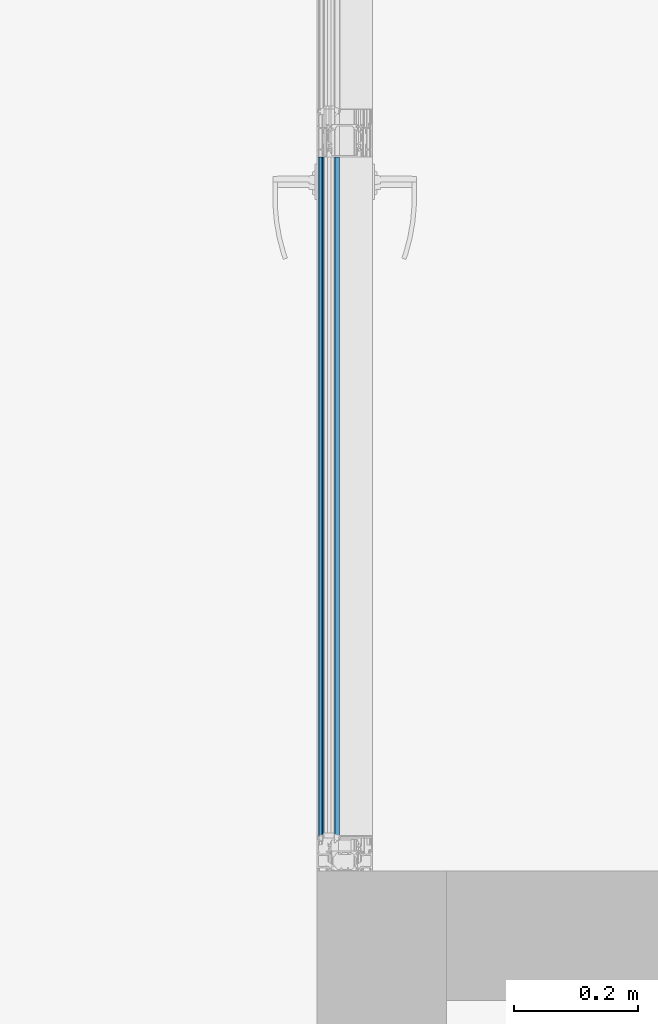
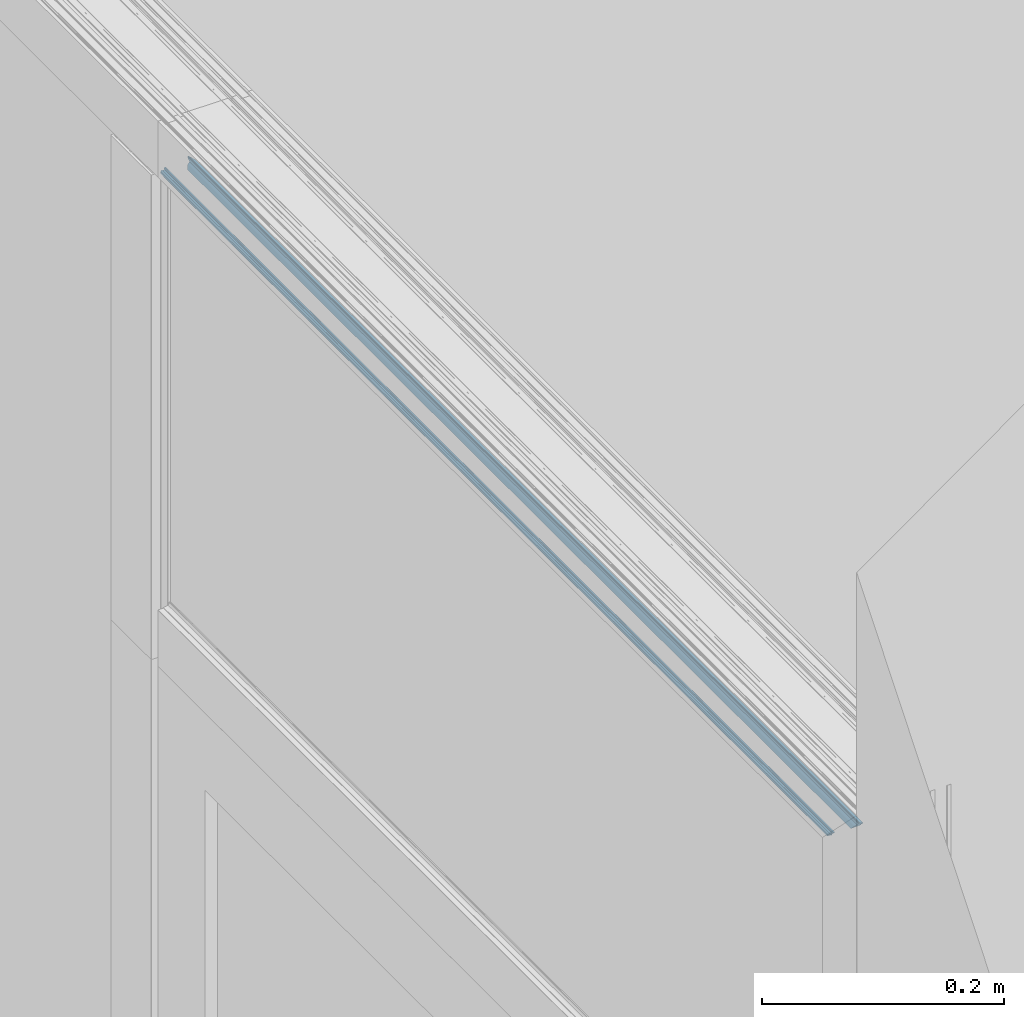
# One storey, part 45 of 62: 1 building element part, 2 elements without a shape of their own.
"""IFC2X3 building model written with IfcOpenShell, lengths in millimetres."""

from ifc_helpers import new_model, entity, si_unit, converted_unit, derived_unit, money_unit, direction, frame, origin_with_axes, place, context, subcontext, project, spatial, faceted_brep, material, type_object, element, aggregate, save


model = new_model("IFC2X3")

# Units and contexts
model_context = context("Model", 3, precision=0.01, world=origin_with_axes(), true_north=direction((0.0, 1.0)))
body_context = subcontext(model_context, "Body", "Model", "MODEL_VIEW")
ifc_project = project(units=[si_unit("LENGTHUNIT", "METRE", prefix="MILLI"), si_unit("AREAUNIT", "SQUARE_METRE"), si_unit("VOLUMEUNIT", "CUBIC_METRE"), converted_unit("PLANEANGLEUNIT", "DEGREE", entity("IfcPlaneAngleMeasure", 0.0174532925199), si_unit("PLANEANGLEUNIT", "RADIAN"), dimensions=[0, 0, 0, 0, 0, 0, 0]), si_unit("SOLIDANGLEUNIT", "STERADIAN"), money_unit("EUR"), converted_unit("TIMEUNIT", "Year", entity("IfcTimeMeasure", 31556926.0), si_unit("TIMEUNIT", "SECOND"), dimensions=[0, 0, 1, 0, 0, 0, 0]), si_unit("MASSUNIT", "GRAM", prefix="KILO"), si_unit("THERMODYNAMICTEMPERATUREUNIT", "DEGREE_CELSIUS"), si_unit("LUMINOUSINTENSITYUNIT", "LUMEN"), si_unit("ENERGYUNIT", "JOULE", prefix="MEGA"), derived_unit("THERMALCONDUCTANCEUNIT", [(si_unit("POWERUNIT", "WATT"), 1), (si_unit("LENGTHUNIT", "METRE"), -1), (si_unit("THERMODYNAMICTEMPERATUREUNIT", "KELVIN"), -1)]), derived_unit("SPECIFICHEATCAPACITYUNIT", [(si_unit("ENERGYUNIT", "JOULE"), 1), (si_unit("MASSUNIT", "GRAM", prefix="KILO"), -1), (si_unit("THERMODYNAMICTEMPERATUREUNIT", "KELVIN"), -1)]), derived_unit("MASSDENSITYUNIT", [(si_unit("MASSUNIT", "GRAM", prefix="KILO"), 1), (si_unit("VOLUMEUNIT", "CUBIC_METRE"), -1)])], contexts=[model_context])

# Site, building, storey
site_placement = place(None, origin_with_axes())
site = spatial("IfcSite", under=ifc_project, at=site_placement, Name="Puškini 31, Narva", CompositionType="ELEMENT")
building_placement = place(site_placement, origin_with_axes())
building = spatial("IfcBuilding", under=site, at=building_placement, Name="Narva Riigigümnaasium", CompositionType="ELEMENT")
storey_placement = place(building_placement, frame((0.0, 0.0, 660.0), z_axis=(0.0, 0.0, 1.0), x_axis=(1.0, 0.0, 0.0)))
storey = spatial("IfcBuildingStorey", under=building, at=storey_placement, Name="2.korrus +0.66", CompositionType="ELEMENT", Elevation=660.0)

# Curtain wall, member, building element part
curtain_wall_type = type_object("IfcCurtainWallType", Name="Curtain Wall Type", PredefinedType="NOTDEFINED")
curtain_wall_placement = place(storey_placement, frame((47544.998162, 221675.502168, -2.45869393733e-05), z_axis=(0.0, 0.0, 1.0), x_axis=(1.0, 0.0, 0.0)))
curtain_wall = element("IfcCurtainWall", 1, at=curtain_wall_placement, inside=storey, type_object=curtain_wall_type, Name="G-SKLF-51")
member_type = type_object("IfcMemberType", Name="61 x 45", PredefinedType="MULLION")
member_placement = place(curtain_wall_placement, frame((0.00169612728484, -395.502317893, 2950.00000756), z_axis=(-4.28853941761e-06, 0.999999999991, 1.47458976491e-08), x_axis=(0.0, 1.4745897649e-08, -1.0)))
member = element("IfcMember", 2, at=member_placement, type_object=member_type, Name="G-SKLF-68-raam", ObjectType="MULLION")
aggregate(curtain_wall, [member])
ifc_material = material(Name="Membraan - Veekindel")
building_element_part_placement = place(member_placement, origin_with_axes())
building_element_part = element("IfcBuildingElementPart", 3, at=building_element_part_placement, material=ifc_material, Name="Membraan - Veekindel", context=body_context, shape_type="Brep", body=[
    faceted_brep([(59.5800222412, 34.73794757, 59.5800213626), (59.5800222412, 34.73794757, 1155.00451595), (61.0413385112, 34.3890442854, 1155.00451595), (61.0413385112, 34.3890442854, 61.0413376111), (58.4755028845, 35.3628499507, 58.4755020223), (58.4755028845, 35.3628499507, 1155.00451595), (57.9693613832, 36.5265882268, 1155.00451595), (57.7000324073, 39.5999584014, 1155.00451595), (57.6464370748, 39.799971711, 1155.00451595), (57.5000161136, 39.946391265, 1155.00451595), (57.3000022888, 39.9999846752, 1155.00451595), (57.3000022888, 39.1999494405, 1155.00451595), (55.3000210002, 39.1999606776, 1155.00451595), (55.2330337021, 38.9499606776, 1155.00451595), (55.0500210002, 38.7669479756, 1155.00451595), (54.8000210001, 38.6999606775, 1155.00451595), (54.5500210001, 38.7669479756, 1155.00451595), (54.3670082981, 38.9499606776, 1155.00451595), (54.300021, 39.1999606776, 1155.00451595), (54.300021, 40.4999366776, 1155.00451595), (54.3402133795, 40.6499366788, 1155.00451595), (54.4500210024, 40.7597443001, 1155.00451595), (54.6000210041, 40.7999366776, 1155.00451595), (54.7000173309, 40.7999366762, 1155.00451595), (54.866675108, 40.850483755, 1155.00451595), (54.9771753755, 40.9850924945, 1155.00451595), (54.9942836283, 41.1584047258, 1155.00451595), (54.9122350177, 41.3120206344, 1155.00451595), (53.8716106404, 42.3533776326, 1155.00451595), (53.7093558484, 42.4618547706, 1155.00451595), (53.517932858, 42.4999486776, 1155.00451595), (51.8818844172, 42.4999486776, 1155.00451595), (51.6904310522, 42.4618421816, 1155.00451595), (51.5281601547, 42.3533311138, 1155.00451595), (50.4878083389, 41.3119729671, 1155.00451595), (50.4057850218, 41.1583618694, 1155.00451595), (50.4229059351, 40.9850671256, 1155.00451595), (50.5334025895, 40.8504763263, 1155.00451595), (50.7000457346, 40.7999366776, 1155.00451595), (50.80004, 40.7999366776, 1155.00451595), (50.95004, 40.7597442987, 1155.00451595), (51.0598476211, 40.6499366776, 1155.00451595), (51.10004, 40.4999366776, 1155.00451595), (51.10004, 39.1999550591, 1155.00451595), (51.0330541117, 38.9499546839, 1155.00451595), (50.8500424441, 38.7669409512, 1155.00451595), (50.6000428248, 38.699952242, 1155.00451595), (50.3500424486, 38.7669381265, 1155.00451595), (50.1670287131, 38.9499497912, 1155.00451595), (50.10004, 39.1999494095, 1155.00451595), (48.7206527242, 39.1999494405, 1155.00451595), (48.7206527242, 38.0023809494, 1155.00451595), (48.7876400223, 37.7523809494, 1155.00451595), (48.9706527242, 37.5693682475, 1155.00451595), (49.2206527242, 37.5023809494, 1155.00451595), (50.3319753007, 37.5023809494, 1155.00451595), (50.5819753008, 37.4353936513, 1155.00451595), (50.7649880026, 37.2523809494, 1155.00451595), (51.1691331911, 36.5523809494, 1155.00451595), (51.352145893, 36.3693682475, 1155.00451595), (51.602145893, 36.3023809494, 1155.00451595), (53.8391557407, 36.3023809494, 1155.00451595), (54.0891557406, 36.3693682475, 1155.00451595), (54.2721684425, 36.5523809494, 1155.00451595), (54.676313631, 37.2523809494, 1155.00451595), (54.8593263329, 37.4353936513, 1155.00451595), (55.1093263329, 37.5023809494, 1155.00451595), (55.7607444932, 37.5023809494, 1155.00451595), (55.9795989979, 37.4519392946, 1155.00451595), (56.1542959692, 37.3107917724, 1155.00451595), (56.2495873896, 37.1074172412, 1155.00451595), (56.9567944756, 35.6067920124, 1155.00451595), (58.2346494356, 34.5489145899, 1155.00451595), (59.8409257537, 34.1343131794, 1155.00451595), (60.7381535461, 33.9217644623, 1155.00451595), (61.0108941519, 33.784859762, 1155.00451595), (61.1423164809, 33.9681748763, 1155.00451595), (61.1536677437, 34.1934467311, 1155.00451595), (53.5000340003, 40.7999553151, 1155.00451595), (53.433048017, 39.44993177, 1155.00451595), (53.2500389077, 39.2669226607, 1155.00451595), (53.0000438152, 39.1999366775, 1155.00451595), (52.4000171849, 39.1999366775, 1155.00451595), (52.1500220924, 39.2669226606, 1155.00451595), (51.9670129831, 39.4499317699, 1155.00451595), (51.9000269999, 39.6999268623, 1155.00451595), (51.9000269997, 40.799955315, 1155.00451595), (51.9670118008, 41.0499459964, 1155.00451595), (52.150017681, 41.2329518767, 1155.00451595), (52.4000083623, 41.299936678, 1155.00451595), (53.0000526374, 41.299936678, 1155.00451595), (53.2500433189, 41.2329518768, 1155.00451595), (53.4330491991, 41.0499459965, 1155.00451595), (61.1536677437, 34.1934467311, 61.1536668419), (61.1423164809, 33.9681748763, 61.1423155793), (61.0108941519, 33.784859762, 61.0108932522), (60.7381535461, 33.9217644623, 60.7381526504), (59.8409257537, 34.1343131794, 59.8409248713), (58.2346494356, 34.5489145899, 58.2346485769), (56.9567944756, 35.6067920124, 56.9567936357), (56.2495873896, 37.1074172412, 56.2495865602), (56.1542959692, 37.3107917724, 56.1542951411), (55.9795989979, 37.4519392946, 55.9795981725), (55.7607444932, 37.5023809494, 55.7607436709), (55.1093263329, 37.5023809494, 55.1093255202), (54.8593263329, 37.4353936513, 54.8593255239), (54.676313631, 37.2523809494, 54.6763128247), (54.2721684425, 36.5523809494, 54.2721676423), (54.0891557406, 36.3693682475, 54.0891549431), (53.8391557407, 36.3023809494, 53.8391549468), (51.602145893, 36.3023809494, 51.602145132), (51.352145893, 36.3693682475, 51.3521451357), (51.1691331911, 36.5523809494, 51.1691324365), (50.7649880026, 37.2523809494, 50.7649872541), (50.5819753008, 37.4353936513, 50.5819745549), (50.3319753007, 37.5023809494, 50.3319745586), (49.2206527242, 37.5023809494, 49.2206519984), (48.9706527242, 37.5693682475, 48.970652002), (48.7876400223, 37.7523809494, 48.7876393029), (48.7206527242, 38.0023809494, 48.7206520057), (48.7206527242, 39.1999494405, 48.7206520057), (50.10004, 39.1999494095, 50.1000392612), (50.1670287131, 38.9499497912, 50.1670279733), (50.3500424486, 38.7669381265, 50.3500417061), (50.6000428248, 38.699952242, 50.6000420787), (50.8500424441, 38.7669409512, 50.8500416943), (51.0330541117, 38.9499546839, 51.0330533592), (51.10004, 39.1999550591, 51.1000392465), (51.10004, 40.4999366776, 51.1000392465), (51.0598476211, 40.6499366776, 51.0598468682), (50.95004, 40.7597442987, 50.9500392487), (50.80004, 40.7999366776, 50.8000392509), (50.7000457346, 40.7999366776, 50.700044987), (50.5334025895, 40.8504763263, 50.5334018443), (50.4229059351, 40.9850671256, 50.4229051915), (50.4057850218, 41.1583618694, 50.4057842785), (50.4878083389, 41.3119729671, 50.4878075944), (51.5281601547, 42.3533311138, 51.5281593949), (51.6904310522, 42.4618421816, 51.6904302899), (51.8818844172, 42.4999486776, 51.8818836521), (53.517932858, 42.4999486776, 53.5179320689), (53.7093558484, 42.4618547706, 53.7093550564), (53.8716106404, 42.3533776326, 53.871609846), (54.9122350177, 41.3120206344, 54.912234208), (54.9942836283, 41.1584047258, 54.9942828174), (54.9771753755, 40.9850924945, 54.9771745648), (54.866675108, 40.850483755, 54.866674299), (54.7000173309, 40.7999366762, 54.7000165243), (54.6000210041, 40.7999366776, 54.600020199), (54.4500210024, 40.7597443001, 54.4500201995), (54.3402133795, 40.6499366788, 54.3402125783), (54.300021, 40.4999366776, 54.3000201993), (54.300021, 39.1999606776, 54.3000201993), (54.3670082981, 38.9499606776, 54.3670074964), (54.5500210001, 38.7669479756, 54.5500201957), (54.8000210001, 38.6999606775, 54.800020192), (55.0500210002, 38.7669479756, 55.0500201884), (55.2330337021, 38.9499606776, 55.2330328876), (55.3000210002, 39.1999606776, 55.3000201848), (57.3000022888, 39.1999494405, 57.3000014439), (57.3000022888, 39.9999846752, 57.3000014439), (57.5000161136, 39.946391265, 57.5000152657), (57.6464370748, 39.799971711, 57.6464362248), (57.7000324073, 39.5999584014, 57.7000315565), (57.9693613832, 36.5265882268, 57.9693605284), (53.5000340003, 40.7999553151, 53.5000332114), (53.4330491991, 41.0499459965, 53.4330484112), (53.2500433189, 41.2329518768, 53.2500425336), (53.0000526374, 41.299936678, 53.0000518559), (52.4000083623, 41.299936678, 52.4000075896), (52.150017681, 41.2329518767, 52.150016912), (51.9670118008, 41.0499459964, 51.9670110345), (51.9000269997, 40.799955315, 51.9000262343), (51.9000269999, 39.6999268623, 51.9000262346), (51.9670129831, 39.4499317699, 51.9670122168), (52.1500220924, 39.2669226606, 52.1500213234), (52.4000171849, 39.1999366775, 52.4000164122), (53.0000438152, 39.1999366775, 53.0000430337), (53.2500389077, 39.2669226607, 53.2500381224), (53.433048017, 39.44993177, 53.433047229)], [[[0, 1, 2, 3]], [[4, 5, 1, 0]], [[2, 1, 5, 6, 7, 8, 9, 10, 11, 12, 13, 14, 15, 16, 17, 18, 19, 20, 21, 22, 23, 24, 25, 26, 27, 28, 29, 30, 31, 32, 33, 34, 35, 36, 37, 38, 39, 40, 41, 42, 43, 44, 45, 46, 47, 48, 49, 50, 51, 52, 53, 54, 55, 56, 57, 58, 59, 60, 61, 62, 63, 64, 65, 66, 67, 68, 69, 70, 71, 72, 73, 74, 75, 76, 77], [78, 79, 80, 81, 82, 83, 84, 85, 86, 87, 88, 89, 90, 91, 92]], [[3, 2, 77, 93]], [[3, 93, 94, 95, 96, 97, 98, 99, 100, 101, 102, 103, 104, 105, 106, 107, 108, 109, 110, 111, 112, 113, 114, 115, 116, 117, 118, 119, 120, 121, 122, 123, 124, 125, 126, 127, 128, 129, 130, 131, 132, 133, 134, 135, 136, 137, 138, 139, 140, 141, 142, 143, 144, 145, 146, 147, 148, 149, 150, 151, 152, 153, 154, 155, 156, 157, 158, 159, 160, 161, 162, 163, 164, 4, 0], [165, 166, 167, 168, 169, 170, 171, 172, 173, 174, 175, 176, 177, 178, 179]], [[164, 6, 5, 4]], [[163, 7, 6, 164]], [[162, 8, 7, 163]], [[161, 9, 8, 162]], [[160, 10, 9, 161]], [[159, 11, 10, 160]], [[158, 12, 11, 159]], [[157, 13, 12, 158]], [[156, 14, 13, 157]], [[155, 15, 14, 156]], [[154, 16, 15, 155]], [[153, 17, 16, 154]], [[152, 18, 17, 153]], [[151, 19, 18, 152]], [[150, 20, 19, 151]], [[149, 21, 20, 150]], [[148, 22, 21, 149]], [[147, 23, 22, 148]], [[146, 24, 23, 147]], [[145, 25, 24, 146]], [[144, 26, 25, 145]], [[143, 27, 26, 144]], [[142, 28, 27, 143]], [[141, 29, 28, 142]], [[140, 30, 29, 141]], [[139, 31, 30, 140]], [[138, 32, 31, 139]], [[137, 33, 32, 138]], [[136, 34, 33, 137]], [[135, 35, 34, 136]], [[134, 36, 35, 135]], [[133, 37, 36, 134]], [[132, 38, 37, 133]], [[131, 39, 38, 132]], [[130, 40, 39, 131]], [[129, 41, 40, 130]], [[128, 42, 41, 129]], [[127, 43, 42, 128]], [[126, 44, 43, 127]], [[125, 45, 44, 126]], [[124, 46, 45, 125]], [[123, 47, 46, 124]], [[122, 48, 47, 123]], [[121, 49, 48, 122]], [[120, 50, 49, 121]], [[119, 51, 50, 120]], [[118, 52, 51, 119]], [[117, 53, 52, 118]], [[116, 54, 53, 117]], [[115, 55, 54, 116]], [[114, 56, 55, 115]], [[113, 57, 56, 114]], [[112, 58, 57, 113]], [[111, 59, 58, 112]], [[110, 60, 59, 111]], [[109, 61, 60, 110]], [[108, 62, 61, 109]], [[107, 63, 62, 108]], [[106, 64, 63, 107]], [[105, 65, 64, 106]], [[104, 66, 65, 105]], [[103, 67, 66, 104]], [[102, 68, 67, 103]], [[101, 69, 68, 102]], [[100, 70, 69, 101]], [[99, 71, 70, 100]], [[98, 72, 71, 99]], [[97, 73, 72, 98]], [[96, 74, 73, 97]], [[95, 75, 74, 96]], [[94, 76, 75, 95]], [[93, 77, 76, 94]], [[179, 79, 78, 165]], [[178, 80, 79, 179]], [[177, 81, 80, 178]], [[176, 82, 81, 177]], [[175, 83, 82, 176]], [[174, 84, 83, 175]], [[173, 85, 84, 174]], [[172, 86, 85, 173]], [[171, 87, 86, 172]], [[170, 88, 87, 171]], [[169, 89, 88, 170]], [[168, 90, 89, 169]], [[167, 91, 90, 168]], [[166, 92, 91, 167]], [[165, 78, 92, 166]]]),
    faceted_brep([(55.9926715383, 16.8063498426, 55.9926707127), (55.9926715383, 16.8063498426, 1155.00451595), (59.0307115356, 16.554149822, 1155.00451595), (59.0307115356, 16.554149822, 59.0307106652), (53.7899070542, 16.6230039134, 53.7899062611), (53.7899070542, 16.6230039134, 1155.00451595), (53.1225200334, 16.3483062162, 1155.00451595), (51.5205025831, 15.0099586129, 1155.00451595), (51.3011765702, 14.8998814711, 1155.00451595), (51.0558924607, 14.9074036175, 1155.00451595), (50.8437237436, 15.0307134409, 1155.00451595), (50.5536994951, 15.2121179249, 1155.00451595), (46.298307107, 16.7340705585, 1155.00451595), (45.950966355, 16.7718696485, 1155.00451595), (45.6241929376, 16.6482027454, 1155.00451595), (45.3889077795, 16.3899097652, 1155.00451595), (45.3195226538, 16.2152275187, 1155.00451595), (45.3418968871, 15.7688623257, 1155.00451595), (45.6142070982, 15.4144760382, 1155.00451595), (51.8169217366, 8.74599822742, 1155.00451595), (51.938943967, 8.6326446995, 1155.00451595), (52.1026310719, 8.60190419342, 1155.00451595), (52.2574645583, 8.66326410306, 1155.00451595), (52.3556584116, 8.79778701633, 1155.00451595), (52.7761212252, 9.95299910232, 1155.00451595), (52.8859560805, 10.0961386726, 1155.00451595), (53.0580290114, 10.1503930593, 1155.00451595), (55.1123574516, 10.1503930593, 1155.00451595), (55.2731258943, 10.1036784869, 1155.00451595), (55.3838261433, 9.9780831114, 1155.00451595), (55.4099827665, 9.81272116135, 1155.00451595), (55.2940485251, 8.85237785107, 1155.00451595), (55.3307332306, 8.72753828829, 1155.00451595), (55.4168250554, 8.62997353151, 1155.00451595), (55.5361285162, 8.57803733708, 1155.00451595), (56.9361285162, 8.30590490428, 1155.00451595), (57.0661058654, 8.3093438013, 1155.00451595), (57.1824204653, 8.36745448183, 1155.00451595), (57.2632233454, 8.46932121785, 1155.00451595), (57.5418652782, 10.0035930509, 1155.00451595), (59.3405112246, 15.0012955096, 1155.00451595), (59.5001582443, 15.5494067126, 1155.00451595), (59.3884652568, 16.1092618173, 1155.00451595), (59.3884652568, 16.1092618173, 59.388464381), (59.5001582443, 15.5494067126, 59.5001573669), (59.3405112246, 15.0012955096, 59.3405103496), (57.5418652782, 10.0035930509, 57.5418644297), (57.2632233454, 8.46932121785, 57.263222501), (57.1824204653, 8.36745448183, 57.1824196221), (57.0661058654, 8.3093438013, 57.066105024), (56.9361285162, 8.30590490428, 56.9361276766), (55.5361285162, 8.57803733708, 55.5361276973), (55.4168250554, 8.62997353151, 55.4168242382), (55.3307332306, 8.72753828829, 55.3307324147), (55.2940485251, 8.85237785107, 55.2940477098), (55.4099827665, 9.81272116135, 55.4099819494), (55.3838261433, 9.9780831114, 55.3838253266), (55.2731258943, 10.1036784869, 55.2731250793), (55.1123574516, 10.1503930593, 55.1123566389), (53.0580290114, 10.1503930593, 53.058028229), (52.8859560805, 10.0961386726, 52.8859553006), (52.7761212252, 9.95299910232, 52.7761204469), (52.3556584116, 8.79778701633, 52.3556576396), (52.2574645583, 8.66326410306, 52.2574637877), (52.1026310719, 8.60190419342, 52.1026303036), (51.938943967, 8.6326446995, 51.9389432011), (51.8169217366, 8.74599822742, 51.8169209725), (45.6142070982, 15.4144760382, 45.6142064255), (45.3418968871, 15.7688623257, 45.3418962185), (45.3195226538, 16.2152275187, 45.3195219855), (45.3889077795, 16.3899097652, 45.3889071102), (45.6241929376, 16.6482027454, 45.6241922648), (45.950966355, 16.7718696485, 45.9509656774), (46.298307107, 16.7340705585, 46.2983064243), (50.5536994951, 15.2121179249, 50.5536987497), (50.8437237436, 15.0307134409, 50.8437229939), (51.0558924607, 14.9074036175, 51.0558917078), (51.3011765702, 14.8998814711, 51.3011758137), (51.5205025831, 15.0099586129, 51.5205018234), (53.1225200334, 16.3483062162, 53.1225192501)], [[[0, 1, 2, 3]], [[4, 5, 1, 0]], [[2, 1, 5, 6, 7, 8, 9, 10, 11, 12, 13, 14, 15, 16, 17, 18, 19, 20, 21, 22, 23, 24, 25, 26, 27, 28, 29, 30, 31, 32, 33, 34, 35, 36, 37, 38, 39, 40, 41, 42]], [[3, 2, 42, 43]], [[3, 43, 44, 45, 46, 47, 48, 49, 50, 51, 52, 53, 54, 55, 56, 57, 58, 59, 60, 61, 62, 63, 64, 65, 66, 67, 68, 69, 70, 71, 72, 73, 74, 75, 76, 77, 78, 79, 4, 0]], [[79, 6, 5, 4]], [[78, 7, 6, 79]], [[77, 8, 7, 78]], [[76, 9, 8, 77]], [[75, 10, 9, 76]], [[74, 11, 10, 75]], [[73, 12, 11, 74]], [[72, 13, 12, 73]], [[71, 14, 13, 72]], [[70, 15, 14, 71]], [[69, 16, 15, 70]], [[68, 17, 16, 69]], [[67, 18, 17, 68]], [[66, 19, 18, 67]], [[65, 20, 19, 66]], [[64, 21, 20, 65]], [[63, 22, 21, 64]], [[62, 23, 22, 63]], [[61, 24, 23, 62]], [[60, 25, 24, 61]], [[59, 26, 25, 60]], [[58, 27, 26, 59]], [[57, 28, 27, 58]], [[56, 29, 28, 57]], [[55, 30, 29, 56]], [[54, 31, 30, 55]], [[53, 32, 31, 54]], [[52, 33, 32, 53]], [[51, 34, 33, 52]], [[50, 35, 34, 51]], [[49, 36, 35, 50]], [[48, 37, 36, 49]], [[47, 38, 37, 48]], [[46, 39, 38, 47]], [[45, 40, 39, 46]], [[44, 41, 40, 45]], [[43, 42, 41, 44]]]),
])
aggregate(member, [building_element_part])

save(model, "model.ifc")
